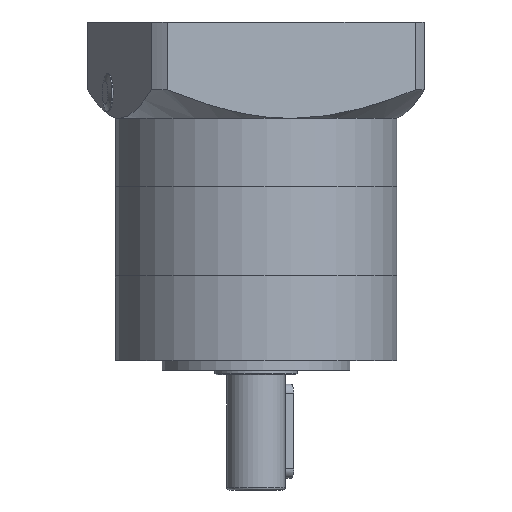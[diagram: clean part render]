
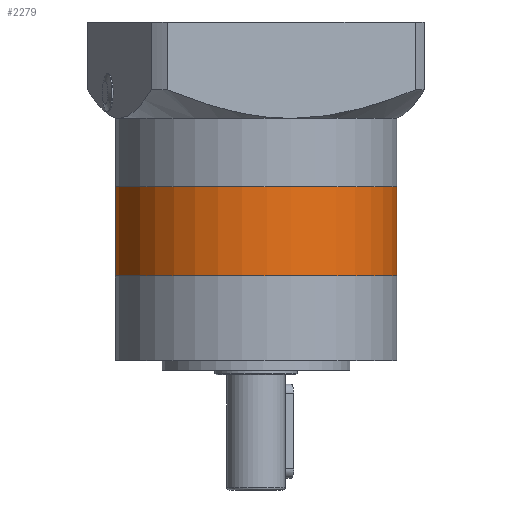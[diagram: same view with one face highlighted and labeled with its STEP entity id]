
A CAD part, front view. The second image highlights one B-rep face of the part: STEP entity #2279.
In plain terms, the highlighted cylindrical face has radius 60 mm (diameter 120 mm), a full revolution.
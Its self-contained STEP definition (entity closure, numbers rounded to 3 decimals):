
#1081=FACE_BOUND('',#4446,.T.);
#1082=FACE_BOUND('',#4447,.T.);
#2279=ADVANCED_FACE('',(#1081,#1082),#3203,.T.);
#3203=CYLINDRICAL_SURFACE('',#17974,60.);
#4446=EDGE_LOOP('',(#6382));
#4447=EDGE_LOOP('',(#6383));
#6382=ORIENTED_EDGE('',*,*,#12784,.T.);
#6383=ORIENTED_EDGE('',*,*,#12794,.T.);
#10886=VERTEX_POINT('',#26526);
#10896=VERTEX_POINT('',#26547);
#12784=EDGE_CURVE('',#10886,#10886,#16520,.T.);
#12794=EDGE_CURVE('',#10896,#10896,#16530,.T.);
#16520=CIRCLE('',#17961,60.);
#16530=CIRCLE('',#17972,60.);
#17961=AXIS2_PLACEMENT_3D('',#26525,#20812,#20813);
#17972=AXIS2_PLACEMENT_3D('',#26546,#20834,#20835);
#17974=AXIS2_PLACEMENT_3D('',#26549,#20838,#20839);
#20812=DIRECTION('',(0.,0.,1.));
#20813=DIRECTION('',(0.968,0.25,0.));
#20834=DIRECTION('',(0.,0.,-1.));
#20835=DIRECTION('',(0.968,0.25,0.));
#20838=DIRECTION('',(0.,0.,-1.));
#20839=DIRECTION('',(-0.968,-0.25,0.));
#26525=CARTESIAN_POINT('',(-107.015,121.46,40.));
#26526=CARTESIAN_POINT('',(-48.926,136.483,40.));
#26546=CARTESIAN_POINT('',(-107.015,121.46,78.));
#26547=CARTESIAN_POINT('',(-48.926,136.483,78.));
#26549=CARTESIAN_POINT('',(-107.015,121.46,78.));
